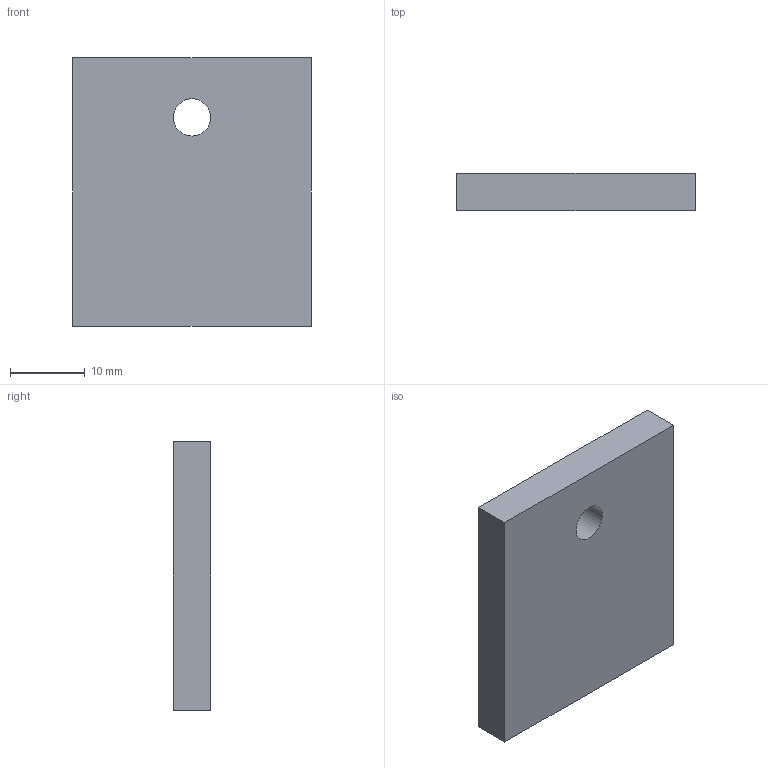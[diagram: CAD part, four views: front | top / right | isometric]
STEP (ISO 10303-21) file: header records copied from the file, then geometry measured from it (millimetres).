
FILE_DESCRIPTION(('Open CASCADE Model'),'2;1');
FILE_NAME('Open CASCADE Shape Model','2026-10-16T18:03:45',('Author'),( 'Open CASCADE'),'Open CASCADE STEP processor 7.8','Open CASCADE 7.8' ,'Unknown');
FILE_SCHEMA(('AUTOMOTIVE_DESIGN { 1 0 10303 214 1 1 1 1 }'));
Length unit declared in the file: millimetre
Products named in the file (1): Open CASCADE STEP translator 7.8 51
Bounding box: 32 x 5 x 36 mm (x, y, z)
Volume: 5661.8 mm3; surface area: 3023.3 mm2
Topology: 1 solids, 1 shells, 7 faces, 15 edges, 10 vertices
Faces by surface type: plane 6, cylinder 1
Full cylindrical faces by diameter (mm): 5 x1
Entity records: 406 total; most frequent: CARTESIAN_POINT 75, DIRECTION 61, LINE 41, VECTOR 41, ORIENTED_EDGE 30, PCURVE 30, DEFINITIONAL_REPRESENTATION 30, EDGE_CURVE 15
